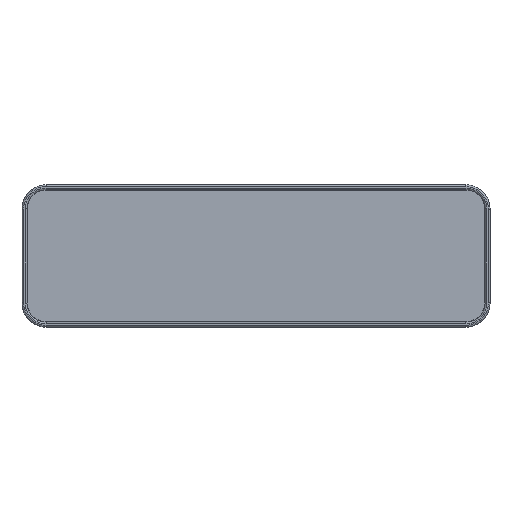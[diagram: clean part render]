
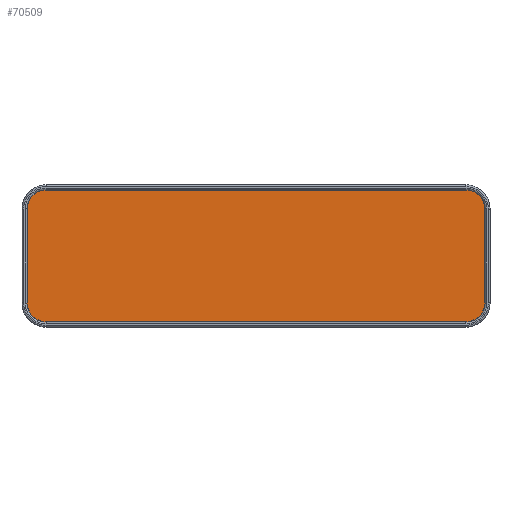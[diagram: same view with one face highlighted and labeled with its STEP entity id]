
A CAD part, top view. The second image highlights one B-rep face of the part: STEP entity #70509.
In plain terms, the highlighted planar face has unit normal (0, 0, 1).
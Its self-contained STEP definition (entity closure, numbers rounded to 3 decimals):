
#70134=CARTESIAN_POINT('',(43.5,5.,0.6));
#70135=DIRECTION('',(0.,0.,1.));
#70136=DIRECTION('',(1.,0.,0.));
#70137=AXIS2_PLACEMENT_3D('',#70134,#70135,#70136);
#70139=DIRECTION('',(0.,1.,0.));
#70140=VECTOR('',#70139,19.5);
#70141=CARTESIAN_POINT('',(47.4,-14.5,0.6));
#70142=LINE('',#70141,#70140);
#70143=CARTESIAN_POINT('',(43.5,-14.5,0.6));
#70144=DIRECTION('',(0.,0.,1.));
#70145=DIRECTION('',(0.,-1.,0.));
#70146=AXIS2_PLACEMENT_3D('',#70143,#70144,#70145);
#70148=DIRECTION('',(1.,0.,0.));
#70149=VECTOR('',#70148,87.);
#70150=CARTESIAN_POINT('',(-43.5,-18.4,0.6));
#70151=LINE('',#70150,#70149);
#70152=CARTESIAN_POINT('',(-43.5,-14.5,0.6));
#70153=DIRECTION('',(0.,0.,1.));
#70154=DIRECTION('',(-1.,0.,0.));
#70155=AXIS2_PLACEMENT_3D('',#70152,#70153,#70154);
#70157=DIRECTION('',(0.,-1.,0.));
#70158=VECTOR('',#70157,19.5);
#70159=CARTESIAN_POINT('',(-47.4,5.,0.6));
#70160=LINE('',#70159,#70158);
#70161=CARTESIAN_POINT('',(-43.5,5.,0.6));
#70162=DIRECTION('',(0.,0.,1.));
#70163=DIRECTION('',(0.,1.,0.));
#70164=AXIS2_PLACEMENT_3D('',#70161,#70162,#70163);
#70166=DIRECTION('',(-1.,0.,0.));
#70167=VECTOR('',#70166,87.);
#70168=CARTESIAN_POINT('',(43.5,8.9,0.6));
#70169=LINE('',#70168,#70167);
#70198=CARTESIAN_POINT('',(47.4,5.,0.6));
#70199=VERTEX_POINT('',#70198);
#70200=CARTESIAN_POINT('',(43.5,8.9,0.6));
#70201=VERTEX_POINT('',#70200);
#70206=CARTESIAN_POINT('',(43.5,-18.4,0.6));
#70207=VERTEX_POINT('',#70206);
#70208=CARTESIAN_POINT('',(47.4,-14.5,0.6));
#70209=VERTEX_POINT('',#70208);
#70214=CARTESIAN_POINT('',(-43.5,8.9,0.6));
#70215=VERTEX_POINT('',#70214);
#70216=CARTESIAN_POINT('',(-47.4,5.,0.6));
#70217=VERTEX_POINT('',#70216);
#70222=CARTESIAN_POINT('',(-47.4,-14.5,0.6));
#70223=VERTEX_POINT('',#70222);
#70224=CARTESIAN_POINT('',(-43.5,-18.4,0.6));
#70225=VERTEX_POINT('',#70224);
#70494=CARTESIAN_POINT('',(0.,0.,0.6));
#70495=DIRECTION('',(0.,0.,1.));
#70496=DIRECTION('',(1.,0.,0.));
#70497=AXIS2_PLACEMENT_3D('',#70494,#70495,#70496);
#70498=PLANE('',#70497);
#70499=ORIENTED_EDGE('',*,*,#70390,.F.);
#70500=ORIENTED_EDGE('',*,*,#70406,.F.);
#70501=ORIENTED_EDGE('',*,*,#70419,.F.);
#70502=ORIENTED_EDGE('',*,*,#70434,.F.);
#70503=ORIENTED_EDGE('',*,*,#70447,.F.);
#70504=ORIENTED_EDGE('',*,*,#70460,.F.);
#70505=ORIENTED_EDGE('',*,*,#70475,.F.);
#70506=ORIENTED_EDGE('',*,*,#70487,.F.);
#70507=EDGE_LOOP('',(#70499,#70500,#70501,#70502,#70503,#70504,#70505,#70506));
#70508=FACE_OUTER_BOUND('',#70507,.F.);
#70509=ADVANCED_FACE('',(#70508),#70498,.T.);
#70138=CIRCLE('',#70137,3.9);
#70147=CIRCLE('',#70146,3.9);
#70156=CIRCLE('',#70155,3.9);
#70165=CIRCLE('',#70164,3.9);
#70390=EDGE_CURVE('',#70199,#70201,#70138,.T.);
#70406=EDGE_CURVE('',#70209,#70199,#70142,.T.);
#70419=EDGE_CURVE('',#70207,#70209,#70147,.T.);
#70434=EDGE_CURVE('',#70225,#70207,#70151,.T.);
#70447=EDGE_CURVE('',#70223,#70225,#70156,.T.);
#70460=EDGE_CURVE('',#70217,#70223,#70160,.T.);
#70475=EDGE_CURVE('',#70215,#70217,#70165,.T.);
#70487=EDGE_CURVE('',#70201,#70215,#70169,.T.);
